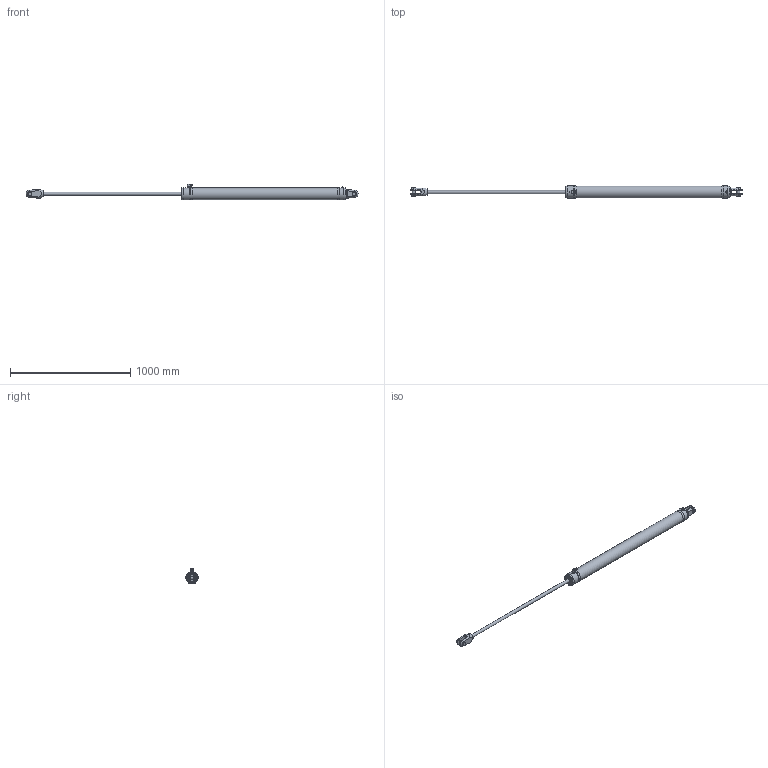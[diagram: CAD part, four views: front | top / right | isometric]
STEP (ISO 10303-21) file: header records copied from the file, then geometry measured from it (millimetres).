
FILE_DESCRIPTION(/* description */ (''),/* implementation_level */ '2;1');
FILE_NAME(/* name */ 'Q:\AA BRAND HYDRAULICS\HYDRAULICS FAMILY DIRECTORY\HYDRAULICS\CYLINDERS\RAMS\ALUMINIUM - STANDARD SINGLE ACTING (-0006 To -0260)\RSA-0040-S1150-NP-71\RSA-0040-S1150-NP-71 (Open).stp',/* time_stamp */ '2017-11-30T12:23:01+00:00',/* author */ ('Lorena'),/* organization */ (''),/* preprocessor_version */ 'ST-DEVELOPER v16.13',/* originating_system */ 'Autodesk Inventor 2018',/* authorisation */ '');
FILE_SCHEMA (('AUTOMOTIVE_DESIGN { 1 0 10303 214 3 1 1 }'));
Products named in the file (1): RSA-0040-S1150-NP-71 (Open)
Bounding box: 2763.74 x 102.2 x 133 mm (x, y, z)
Volume: 11840729.8 mm3; surface area: 622612 mm2
Topology: 1 solids, 4 shells, 1613 faces, 4273 edges, 2818 vertices
Faces by surface type: plane 894, bspline 573, cylinder 81, cone 56, torus 5, sphere 4
Full cylindrical faces by diameter (mm): 4 x1, 4.134 x1, 4.2 x2, 5 x1, 5.1 x1, 5.9 x1, 7 x1, 8 x2, 9 x3, 10 x2, 11.157 x1, 11.8 x1, 12 x1, 12.157 x1, 12.77 x1, 13 x1, 13.157 x2, 14.5 x2, 16 x2, 18.3 x2, 22 x1, 25.4 x2, 26 x1, 31.75 x2, 62 x1, 99.2 x1, 102.2 x4
Entity records: 56387 total; most frequent: CARTESIAN_POINT 19126, ORIENTED_EDGE 8304, DIRECTION 5285, EDGE_CURVE 4152, VERTEX_POINT 2783, LINE 2681, VECTOR 2681, EDGE_LOOP 1854
